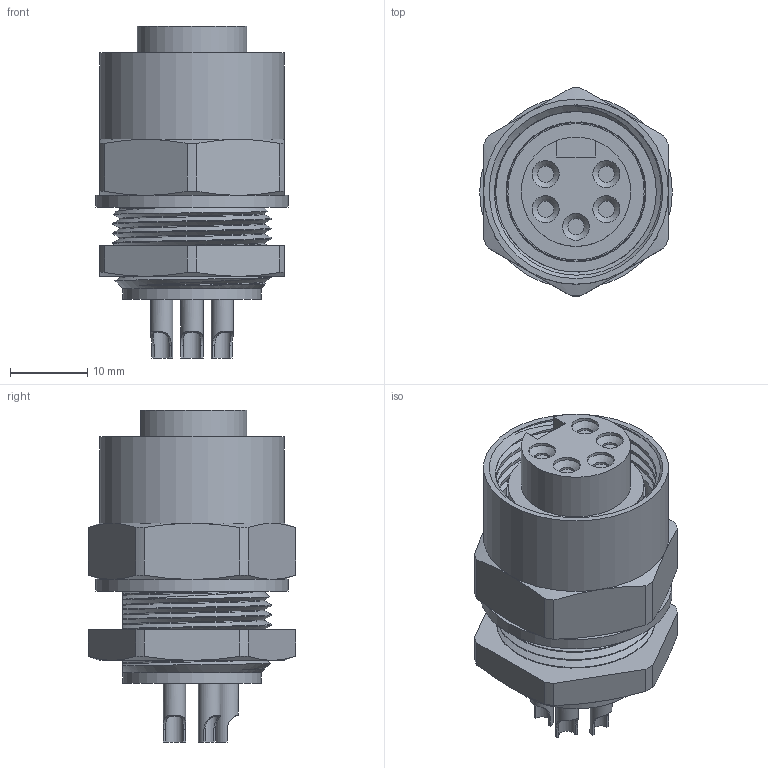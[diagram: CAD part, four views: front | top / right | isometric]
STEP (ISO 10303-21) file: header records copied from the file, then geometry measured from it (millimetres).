
FILE_DESCRIPTION (( 'STEP AP203' ), '1' );
FILE_NAME ('CM03-PR5S-S-CF(R1).STEP', '2022-04-06T09:04:33', ( '' ), ( '' ), 'SwSTEP 2.0', 'SolidWorks 2018', '' );
FILE_SCHEMA (( 'CONFIG_CONTROL_DESIGN' ));
Length unit declared in the file: millimetre
Products named in the file (1): CM03-PR5S-S-CF(R1)
Bounding box: 25 x 27 x 43.1 mm (x, y, z)
Volume: 12983.2 mm3; surface area: 6634.1 mm2
Topology: 1 solids, 1 shells, 167 faces, 415 edges, 262 vertices
Faces by surface type: cylinder 57, plane 53, cone 33, bspline 24
Full cylindrical faces by diameter (mm): 2.1 x5, 2.25 x5, 2.9 x5, 3.5 x5, 17.7 x1, 18 x3, 19.5 x1, 20.86 x3, 24 x1, 25 x1
Entity records: 32470 total; most frequent: CARTESIAN_POINT 29050, ORIENTED_EDGE 706, DIRECTION 617, EDGE_CURVE 353, AXIS2_PLACEMENT_3D 255, VERTEX_POINT 242, EDGE_LOOP 217, FACE_OUTER_BOUND 192
